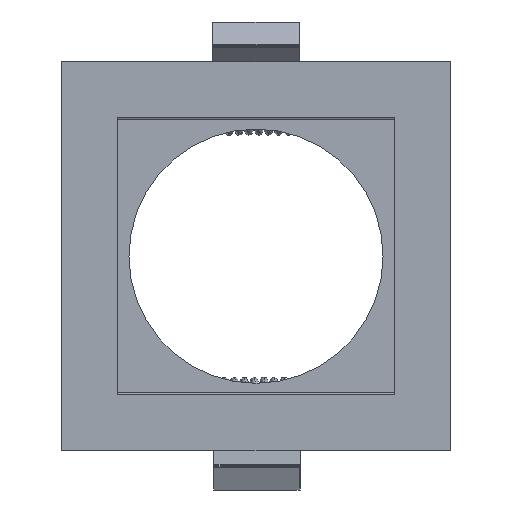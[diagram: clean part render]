
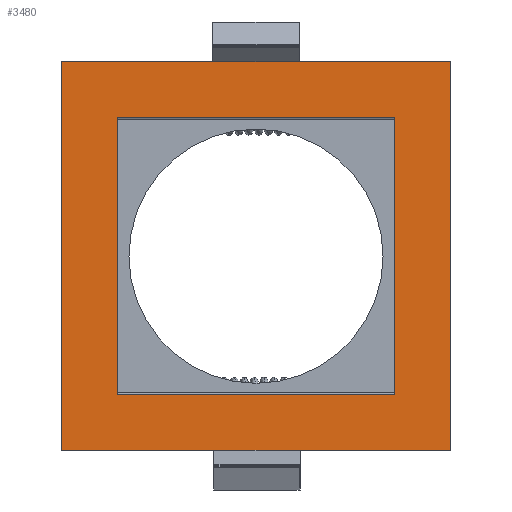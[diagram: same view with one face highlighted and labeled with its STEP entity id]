
A CAD part, top view. The second image highlights one B-rep face of the part: STEP entity #3480.
In plain terms, the highlighted planar face has unit normal (0, 0, 1).
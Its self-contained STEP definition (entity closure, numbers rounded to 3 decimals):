
#145=FACE_BOUND('',#584,.T.);
#235=PLANE('',#3738);
#383=FACE_OUTER_BOUND('',#583,.T.);
#583=EDGE_LOOP('',(#2944,#2945,#2946,#2947));
#584=EDGE_LOOP('',(#2948,#2949,#2950,#2951));
#884=LINE('',#5322,#1265);
#888=LINE('',#5330,#1269);
#891=LINE('',#5336,#1272);
#894=LINE('',#5341,#1275);
#896=LINE('',#5346,#1277);
#900=LINE('',#5354,#1281);
#903=LINE('',#5360,#1284);
#906=LINE('',#5365,#1287);
#1265=VECTOR('',#4392,304.8);
#1269=VECTOR('',#4398,304.8);
#1272=VECTOR('',#4403,304.8);
#1275=VECTOR('',#4408,304.8);
#1277=VECTOR('',#4412,304.8);
#1281=VECTOR('',#4418,304.8);
#1284=VECTOR('',#4423,304.8);
#1287=VECTOR('',#4428,304.8);
#1678=VERTEX_POINT('',#5320);
#1679=VERTEX_POINT('',#5321);
#1682=VERTEX_POINT('',#5329);
#1684=VERTEX_POINT('',#5335);
#1686=VERTEX_POINT('',#5344);
#1687=VERTEX_POINT('',#5345);
#1690=VERTEX_POINT('',#5353);
#1692=VERTEX_POINT('',#5359);
#2101=EDGE_CURVE('',#1678,#1679,#884,.T.);
#2105=EDGE_CURVE('',#1682,#1678,#888,.T.);
#2108=EDGE_CURVE('',#1684,#1682,#891,.T.);
#2111=EDGE_CURVE('',#1679,#1684,#894,.T.);
#2113=EDGE_CURVE('',#1686,#1687,#896,.T.);
#2117=EDGE_CURVE('',#1690,#1686,#900,.T.);
#2120=EDGE_CURVE('',#1692,#1690,#903,.T.);
#2123=EDGE_CURVE('',#1687,#1692,#906,.T.);
#2944=ORIENTED_EDGE('',*,*,#2123,.T.);
#2945=ORIENTED_EDGE('',*,*,#2120,.T.);
#2946=ORIENTED_EDGE('',*,*,#2117,.T.);
#2947=ORIENTED_EDGE('',*,*,#2113,.T.);
#2948=ORIENTED_EDGE('',*,*,#2111,.T.);
#2949=ORIENTED_EDGE('',*,*,#2108,.T.);
#2950=ORIENTED_EDGE('',*,*,#2105,.T.);
#2951=ORIENTED_EDGE('',*,*,#2101,.T.);
#3480=ADVANCED_FACE('',(#383,#145),#235,.T.);
#3738=AXIS2_PLACEMENT_3D('',#5368,#4432,#4433);
#4392=DIRECTION('',(1.,0.,0.));
#4398=DIRECTION('',(0.,1.,0.));
#4403=DIRECTION('',(-1.,0.,0.));
#4408=DIRECTION('',(0.,-1.,0.));
#4412=DIRECTION('',(0.,1.,0.));
#4418=DIRECTION('',(1.,0.,0.));
#4423=DIRECTION('',(0.,-1.,0.));
#4428=DIRECTION('',(-1.,0.,0.));
#4432=DIRECTION('center_axis',(0.,0.,1.));
#4433=DIRECTION('ref_axis',(-1.,0.,0.));
#5320=CARTESIAN_POINT('',(-35.,35.,1.688));
#5321=CARTESIAN_POINT('',(35.,35.,1.688));
#5322=CARTESIAN_POINT('',(-35.,35.,1.688));
#5329=CARTESIAN_POINT('',(-35.,-35.,1.688));
#5330=CARTESIAN_POINT('',(-35.,-35.,1.688));
#5335=CARTESIAN_POINT('',(35.,-35.,1.688));
#5336=CARTESIAN_POINT('',(35.,-35.,1.688));
#5341=CARTESIAN_POINT('',(35.,35.,1.688));
#5344=CARTESIAN_POINT('',(49.,-49.,1.688));
#5345=CARTESIAN_POINT('',(49.,49.,1.688));
#5346=CARTESIAN_POINT('',(49.,-49.,1.688));
#5353=CARTESIAN_POINT('',(-49.,-49.,1.688));
#5354=CARTESIAN_POINT('',(-49.,-49.,1.688));
#5359=CARTESIAN_POINT('',(-49.,49.,1.688));
#5360=CARTESIAN_POINT('',(-49.,49.,1.688));
#5365=CARTESIAN_POINT('',(49.,49.,1.688));
#5368=CARTESIAN_POINT('Origin',(-67.005,49.,1.688));
